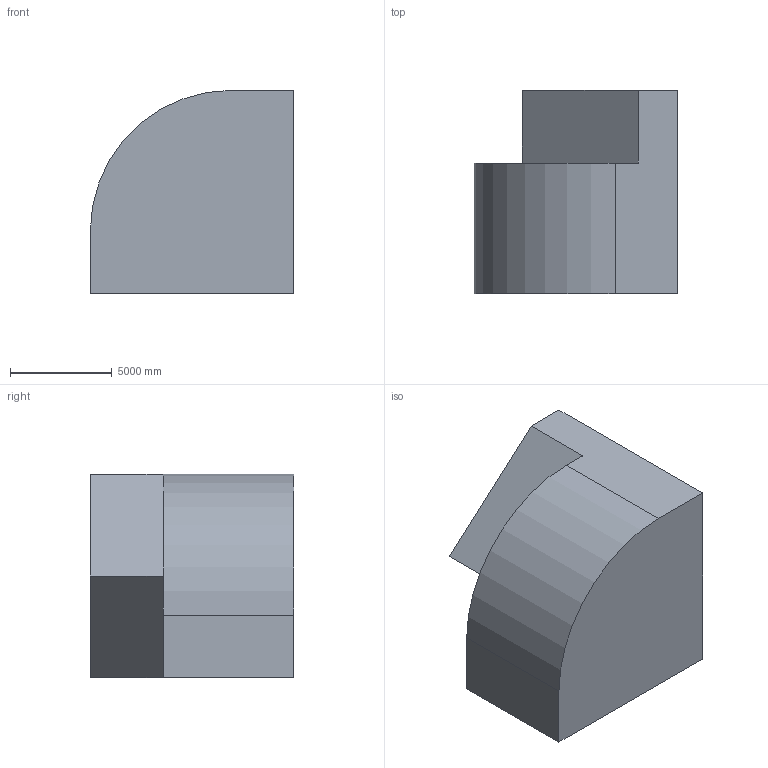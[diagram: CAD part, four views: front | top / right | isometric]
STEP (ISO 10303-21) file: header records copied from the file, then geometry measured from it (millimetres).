
FILE_DESCRIPTION (( 'STEP AP203' ), '1' );
FILE_NAME ('80.STEP', '2022-07-28T13:34:03', ( 'user' ), ( '' ), 'SwSTEP 2.0', 'SolidWorks 2021', '' );
FILE_SCHEMA (( 'CONFIG_CONTROL_DESIGN' ));
Length unit declared in the file: centimetre
Products named in the file (1): 80
Bounding box: 10000 x 10000 x 10000 mm (x, y, z)
Volume: 746954831248.5 mm3; surface area: 521031565.4 mm2
Topology: 1 solids, 1 shells, 10 faces, 24 edges, 16 vertices
Faces by surface type: plane 9, cylinder 1
Entity records: 367 total; most frequent: CARTESIAN_POINT 51, DIRECTION 48, ORIENTED_EDGE 48, EDGE_CURVE 24, LINE 22, VECTOR 22, VERTEX_POINT 16, AXIS2_PLACEMENT_3D 13
